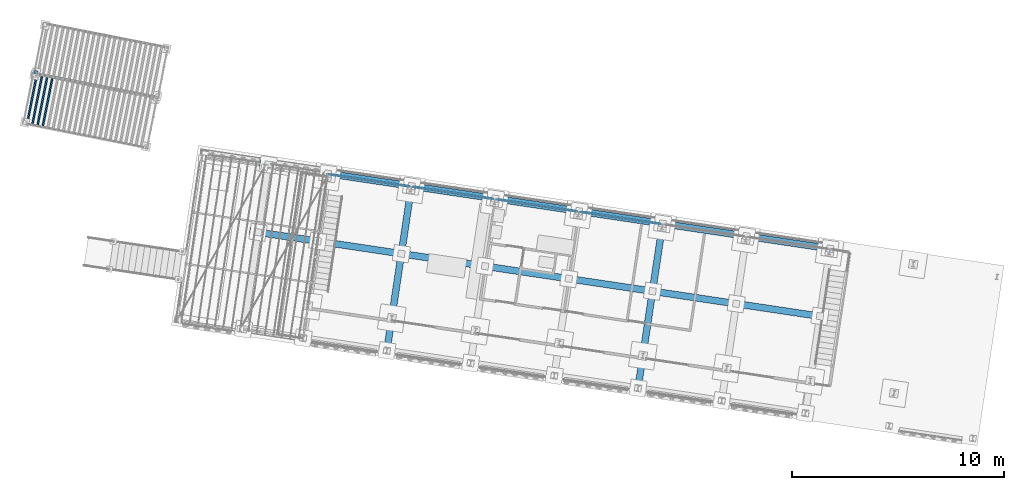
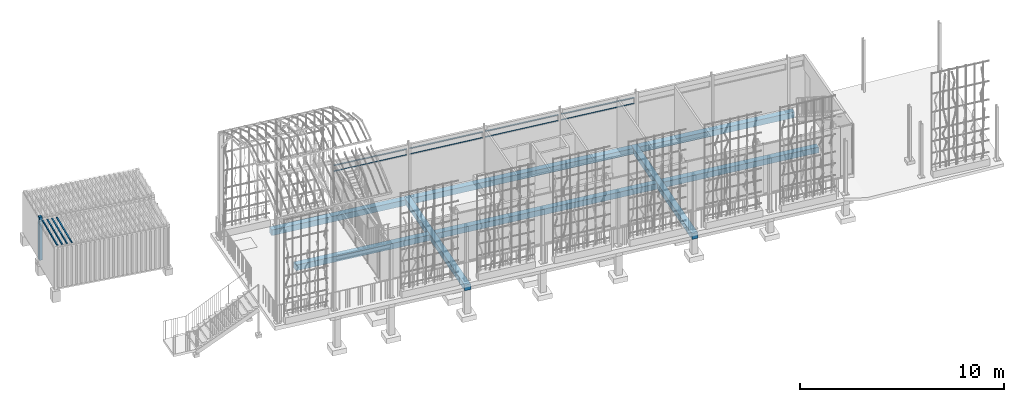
# One storey, part 82 of 142: 13 members, 4 beams, 3 elements without a shape of their own.
"""IFC4 building model written with IfcOpenShell, lengths in metres."""

from ifc_helpers import new_model, si_unit, direction, frame, origin_with_axes, place, context, subcontext, project, spatial, polyline, rectangle, outline, extrude, material, material_profile, profile_set, profile_usage, type_object, element, aggregate, save


model = new_model("IFC4")

# Units and contexts
model_context = context("Model", 3, precision=1e-05, world=origin_with_axes(), true_north=direction((0.0, 1.0)))
body_context = subcontext(model_context, "Body", "Model", "MODEL_VIEW")
ifc_project = project(units=[si_unit("LENGTHUNIT", "METRE"), si_unit("AREAUNIT", "SQUARE_METRE"), si_unit("VOLUMEUNIT", "CUBIC_METRE")], contexts=[model_context])

# Site, building, storey
site_placement = place(None, origin_with_axes())
site = spatial("IfcSite", under=ifc_project, at=site_placement, Name="Lares · Rua das Mercês · artigo 4771")
building_placement = place(site_placement, frame((15.0, 9.7, 14.65), z_axis=(0.0, 0.0, 1.0), x_axis=(0.989015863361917, -0.147809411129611, 0.0)))
building = spatial("IfcBuilding", under=site, at=building_placement, Name="Casa Sobreposta")
storey_placement = place(building_placement, origin_with_axes())
storey = spatial("IfcBuildingStorey", under=building, at=storey_placement, Name="00 · Habitação e estacionamento", Elevation=14.65)

# Members
ifc_material_1 = material(Name="Aço pintado / Stahl lackiert", Category="steel")
ifc_material_profile = material_profile(ifc_material_1, rectangle(XDim=0.035, YDim=0.035))
ifc_profile_set = profile_set([ifc_material_profile], Name="R0.035")
ifc_profile_usage_1 = profile_usage(ifc_profile_set)
member_type = type_object("IfcMemberType", Name="R0.035 / steel", PredefinedType="NOTDEFINED", material=ifc_profile_set)
member_1_placement = place(storey_placement, frame((0.08, 6.4, 2.35), z_axis=(1.0, 0.0, 0.0), x_axis=(0.0, -1.0, 0.0)))
element("IfcMember", 1, at=member_1_placement, inside=storey, type_object=member_type, material=ifc_profile_usage_1, Name="Rasgo norte 1 · travessa", context=body_context, shape_type="SweptSolid", body=[
    extrude(rectangle(XDim=0.035, YDim=0.035), origin_with_axes(), (0.0, 0.0, 1.0), 3.84),
])
ifc_profile_usage_2 = profile_usage(ifc_profile_set)
member_2_placement = place(storey_placement, frame((0.08, 6.4, 2.7), z_axis=(1.0, 0.0, 0.0), x_axis=(0.0, -1.0, 0.0)))
element("IfcMember", 2, at=member_2_placement, inside=storey, type_object=member_type, material=ifc_profile_usage_2, Name="Rasgo norte 1 · travessa", context=body_context, shape_type="SweptSolid", body=[
    extrude(rectangle(XDim=0.035, YDim=0.035), origin_with_axes(), (0.0, 0.0, 1.0), 3.84),
])
ifc_profile_usage_3 = profile_usage(ifc_profile_set)
member_3_placement = place(storey_placement, frame((4.08, 6.4, 2.35), z_axis=(1.0, 0.0, 0.0), x_axis=(0.0, -1.0, 0.0)))
element("IfcMember", 3, at=member_3_placement, inside=storey, type_object=member_type, material=ifc_profile_usage_3, Name="Rasgo norte 2 · travessa", context=body_context, shape_type="SweptSolid", body=[
    extrude(rectangle(XDim=0.035, YDim=0.035), origin_with_axes(), (0.0, 0.0, 1.0), 3.84),
])
ifc_profile_usage_4 = profile_usage(ifc_profile_set)
member_4_placement = place(storey_placement, frame((4.08, 6.4, 2.7), z_axis=(1.0, 0.0, 0.0), x_axis=(0.0, -1.0, 0.0)))
element("IfcMember", 4, at=member_4_placement, inside=storey, type_object=member_type, material=ifc_profile_usage_4, Name="Rasgo norte 2 · travessa", context=body_context, shape_type="SweptSolid", body=[
    extrude(rectangle(XDim=0.035, YDim=0.035), origin_with_axes(), (0.0, 0.0, 1.0), 3.84),
])
ifc_profile_usage_5 = profile_usage(ifc_profile_set)
member_5_placement = place(storey_placement, frame((8.08, 6.4, 2.35), z_axis=(1.0, 0.0, 0.0), x_axis=(0.0, -1.0, 0.0)))
element("IfcMember", 5, at=member_5_placement, inside=storey, type_object=member_type, material=ifc_profile_usage_5, Name="Rasgo norte 3 · travessa", context=body_context, shape_type="SweptSolid", body=[
    extrude(rectangle(XDim=0.035, YDim=0.035), origin_with_axes(), (0.0, 0.0, 1.0), 3.84),
])
ifc_profile_usage_6 = profile_usage(ifc_profile_set)
member_6_placement = place(storey_placement, frame((8.08, 6.4, 2.7), z_axis=(1.0, 0.0, 0.0), x_axis=(0.0, -1.0, 0.0)))
element("IfcMember", 6, at=member_6_placement, inside=storey, type_object=member_type, material=ifc_profile_usage_6, Name="Rasgo norte 3 · travessa", context=body_context, shape_type="SweptSolid", body=[
    extrude(rectangle(XDim=0.035, YDim=0.035), origin_with_axes(), (0.0, 0.0, 1.0), 3.84),
])
ifc_profile_usage_7 = profile_usage(ifc_profile_set)
member_7_placement = place(storey_placement, frame((12.08, 6.4, 2.35), z_axis=(1.0, 0.0, 0.0), x_axis=(0.0, -1.0, 0.0)))
element("IfcMember", 7, at=member_7_placement, inside=storey, type_object=member_type, material=ifc_profile_usage_7, Name="Rasgo norte 4 · travessa", context=body_context, shape_type="SweptSolid", body=[
    extrude(rectangle(XDim=0.035, YDim=0.035), origin_with_axes(), (0.0, 0.0, 1.0), 3.84),
])
ifc_profile_usage_8 = profile_usage(ifc_profile_set)
member_8_placement = place(storey_placement, frame((12.08, 6.4, 2.7), z_axis=(1.0, 0.0, 0.0), x_axis=(0.0, -1.0, 0.0)))
element("IfcMember", 8, at=member_8_placement, inside=storey, type_object=member_type, material=ifc_profile_usage_8, Name="Rasgo norte 4 · travessa", context=body_context, shape_type="SweptSolid", body=[
    extrude(rectangle(XDim=0.035, YDim=0.035), origin_with_axes(), (0.0, 0.0, 1.0), 3.84),
])

# Assembly, beams
assembly_1_placement = place(storey_placement, origin_with_axes())
assembly_1 = element("IfcElementAssembly", 9, at=assembly_1_placement, inside=storey, Name="Pódio · terraço, casa térrea e cisterna", ObjectType="CISTERN_PODIUM", PredefinedType="USERDEFINED")
ifc_material_2 = material(Name="Betão armado / Stahlbeton", Category="concrete")
beam_1_placement = place(assembly_1_placement, frame((0.0, 0.0, -0.59), z_axis=(0.0, 0.0, 1.0), x_axis=(1.0, 0.0, 0.0)))
beam_1 = element("IfcBeam", 10, at=beam_1_placement, material=ifc_material_2, Name="Pódio suspenso · viga transversal", context=body_context, shape_type="SweptSolid", body=[
    extrude(outline(polyline([(4.16, -1.59), (4.16, 6.59), (3.84, 6.59), (3.84, -1.59), (4.16, -1.59)])), origin_with_axes(), (0.0, 0.0, 1.0), 0.34),
])
beam_2_placement = place(assembly_1_placement, frame((0.0, 0.0, -0.59), z_axis=(0.0, 0.0, 1.0), x_axis=(1.0, 0.0, 0.0)))
beam_2 = element("IfcBeam", 11, at=beam_2_placement, material=ifc_material_2, Name="Pódio suspenso · viga transversal", context=body_context, shape_type="SweptSolid", body=[
    extrude(outline(polyline([(16.16, -1.59), (16.16, 6.59), (15.84, 6.59), (15.84, -1.59), (16.16, -1.59)])), origin_with_axes(), (0.0, 0.0, 1.0), 0.34),
])
beam_3_placement = place(assembly_1_placement, frame((0.0, 0.0, -0.59), z_axis=(0.0, 0.0, 1.0), x_axis=(1.0, 0.0, 0.0)))
beam_3 = element("IfcBeam", 12, at=beam_3_placement, material=ifc_material_2, Name="Pódio suspenso · viga longitudinal", context=body_context, shape_type="SweptSolid", body=[
    extrude(outline(polyline([(24.36, 3.04), (24.36, 3.36), (-3.25, 3.36), (-3.25, 3.04), (24.36, 3.04)])), origin_with_axes(), (0.0, 0.0, 1.0), 0.34),
])
beam_4_placement = place(assembly_1_placement, frame((0.0, 0.0, -0.59), z_axis=(0.0, 0.0, 1.0), x_axis=(1.0, 0.0, 0.0)))
beam_4 = element("IfcBeam", 13, at=beam_4_placement, material=ifc_material_2, Name="Pódio suspenso · viga longitudinal", context=body_context, shape_type="SweptSolid", body=[
    extrude(outline(polyline([(24.36, 6.27), (24.36, 6.59), (-3.25, 6.59), (-3.25, 6.27), (24.36, 6.27)])), origin_with_axes(), (0.0, 0.0, 1.0), 0.34),
])
aggregate(assembly_1, [beam_1, beam_2, beam_3, beam_4])

# Assembly, member
assembly_2_placement = place(storey_placement, frame((-14.4335953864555, 9.04888612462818, 0.0), z_axis=(0.0, 0.0, 1.0), x_axis=(0.999032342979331, -0.0439815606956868, 0.0)))
assembly_2 = element("IfcElementAssembly", 14, at=assembly_2_placement, inside=storey, Name="Contentor existente 1 · 6 m", ObjectType="EXISTING_SHIPPING_CONTAINER", PredefinedType="USERDEFINED")
ifc_material_3 = material(Name="Contentor · pintura 1", Category="steel")
member_9_placement = place(assembly_2_placement, frame((0.0, 0.0, -1.01314181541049), z_axis=(0.0, 0.0, 1.0), x_axis=(1.0, 0.0, 0.0)))
member_9 = element("IfcMember", 15, at=member_9_placement, material=ifc_material_3, Name="Contentor · canto", context=body_context, shape_type="SweptSolid", body=[
    extrude(outline(polyline([(0.16, 0.0), (0.16, 0.16), (0.0, 0.16), (0.0, 0.0), (0.16, 0.0)])), origin_with_axes(), (0.0, 0.0, 1.0), 2.59),
])
aggregate(assembly_2, [member_9])

# Assembly, members
assembly_3_placement = place(storey_placement, frame((-14.5932944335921, 6.63122214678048, 0.0), z_axis=(0.0, 0.0, 1.0), x_axis=(0.998832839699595, -0.0483007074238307, 0.0)))
assembly_3 = element("IfcElementAssembly", 16, at=assembly_3_placement, inside=storey, Name="Contentor existente 2 · 6 m", ObjectType="EXISTING_SHIPPING_CONTAINER", PredefinedType="USERDEFINED")
ifc_material_4 = material(Name="Contentor · pintura 2", Category="steel")
member_10_placement = place(assembly_3_placement, frame((0.0, 0.0, 1.41624830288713), z_axis=(0.0, 0.0, 1.0), x_axis=(1.0, 0.0, 0.0)))
member_10 = element("IfcMember", 17, at=member_10_placement, material=ifc_material_4, Name="Contentor · nervura cobertura", context=body_context, shape_type="SweptSolid", body=[
    extrude(outline(polyline([(0.23, 0.08), (0.23, 2.36), (0.15, 2.36), (0.15, 0.08), (0.23, 0.08)])), origin_with_axes(), (0.0, 0.0, 1.0), 0.018),
])
member_11_placement = place(assembly_3_placement, frame((0.0, 0.0, 1.41624830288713), z_axis=(0.0, 0.0, 1.0), x_axis=(1.0, 0.0, 0.0)))
member_11 = element("IfcMember", 18, at=member_11_placement, material=ifc_material_4, Name="Contentor · nervura cobertura", context=body_context, shape_type="SweptSolid", body=[
    extrude(outline(polyline([(0.48, 0.08), (0.48, 2.36), (0.4, 2.36), (0.4, 0.08), (0.48, 0.08)])), origin_with_axes(), (0.0, 0.0, 1.0), 0.018),
])
member_12_placement = place(assembly_3_placement, frame((0.0, 0.0, 1.41624830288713), z_axis=(0.0, 0.0, 1.0), x_axis=(1.0, 0.0, 0.0)))
member_12 = element("IfcMember", 19, at=member_12_placement, material=ifc_material_4, Name="Contentor · nervura cobertura", context=body_context, shape_type="SweptSolid", body=[
    extrude(outline(polyline([(0.73, 0.08), (0.73, 2.36), (0.65, 2.36), (0.65, 0.08), (0.73, 0.08)])), origin_with_axes(), (0.0, 0.0, 1.0), 0.018),
])
member_13_placement = place(assembly_3_placement, frame((0.0, 0.0, 1.41624830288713), z_axis=(0.0, 0.0, 1.0), x_axis=(1.0, 0.0, 0.0)))
member_13 = element("IfcMember", 20, at=member_13_placement, material=ifc_material_4, Name="Contentor · nervura cobertura", context=body_context, shape_type="SweptSolid", body=[
    extrude(outline(polyline([(0.98, 0.08), (0.98, 2.36), (0.9, 2.36), (0.9, 0.08), (0.98, 0.08)])), origin_with_axes(), (0.0, 0.0, 1.0), 0.018),
])
aggregate(assembly_3, [member_10, member_11, member_12, member_13])

save(model, "model.ifc")
